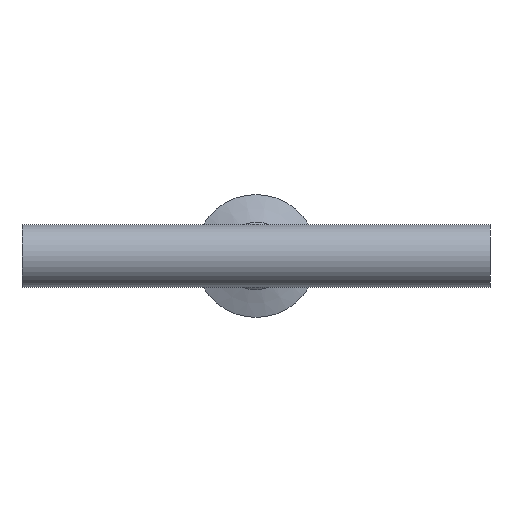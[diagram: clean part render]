
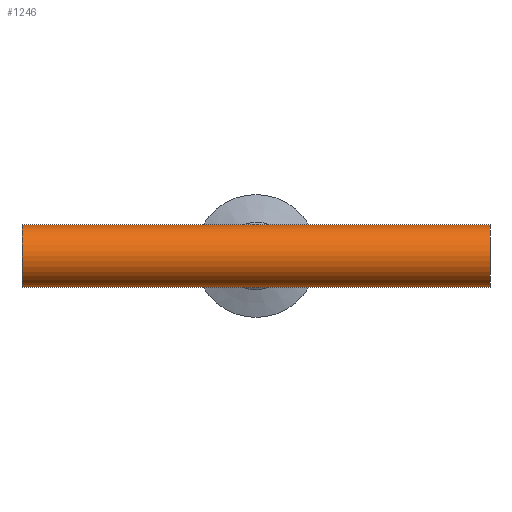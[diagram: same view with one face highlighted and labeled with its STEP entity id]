
A CAD part, front view. The second image highlights one B-rep face of the part: STEP entity #1246.
In plain terms, the highlighted cylindrical face has radius 6.35 mm (diameter 12.7 mm), a partial arc.
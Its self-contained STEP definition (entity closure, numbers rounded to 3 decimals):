
#38 = DIRECTION ( 'NONE',  ( 0., 0., -1. ) ) ;
#111 = VERTEX_POINT ( 'NONE', #345 ) ;
#137 = DIRECTION ( 'NONE',  ( 1., 0., 0. ) ) ;
#149 = VERTEX_POINT ( 'NONE', #519 ) ;
#251 = EDGE_CURVE ( 'NONE', #111, #1142, #917, .T. ) ;
#273 = EDGE_LOOP ( 'NONE', ( #1214, #686, #950, #504, #962, #974 ) ) ;
#284 = CARTESIAN_POINT ( 'NONE',  ( -47.6, 0., 0. ) ) ;
#290 = DIRECTION ( 'NONE',  ( 1., 0., 0. ) ) ;
#297 = DIRECTION ( 'NONE',  ( 0., 0., -1. ) ) ;
#304 = EDGE_CURVE ( 'NONE', #575, #765, #980, .T. ) ;
#324 = CARTESIAN_POINT ( 'NONE',  ( 47.6, 0., -6.35 ) ) ;
#345 = CARTESIAN_POINT ( 'NONE',  ( -47.6, 0., 6.35 ) ) ;
#348 = CARTESIAN_POINT ( 'NONE',  ( 0., 0., 6.35 ) ) ;
#370 = VECTOR ( 'NONE', #612, 1000. ) ;
#382 = CARTESIAN_POINT ( 'NONE',  ( 47.6, 0., 0. ) ) ;
#403 = DIRECTION ( 'NONE',  ( -1., 0., 0. ) ) ;
#425 = VECTOR ( 'NONE', #845, 1000. ) ;
#442 = VERTEX_POINT ( 'NONE', #908 ) ;
#503 = VECTOR ( 'NONE', #137, 1000. ) ;
#504 = ORIENTED_EDGE ( 'NONE', *, *, #912, .T. ) ;
#517 = EDGE_CURVE ( 'NONE', #111, #149, #844, .T. ) ;
#519 = CARTESIAN_POINT ( 'NONE',  ( -47.6, 0., -6.35 ) ) ;
#537 = LINE ( 'NONE', #744, #503 ) ;
#575 = VERTEX_POINT ( 'NONE', #324 ) ;
#577 = DIRECTION ( 'NONE',  ( 1., 0., 0. ) ) ;
#584 = AXIS2_PLACEMENT_3D ( 'NONE', #1215, #1210, #38 ) ;
#604 = CARTESIAN_POINT ( 'NONE',  ( -47.6, 0., -6.35 ) ) ;
#612 = DIRECTION ( 'NONE',  ( 1., 0., 0. ) ) ;
#686 = ORIENTED_EDGE ( 'NONE', *, *, #517, .T. ) ;
#744 = CARTESIAN_POINT ( 'NONE',  ( -47.6, 0., 6.35 ) ) ;
#765 = VERTEX_POINT ( 'NONE', #1187 ) ;
#809 = CYLINDRICAL_SURFACE ( 'NONE', #584, 6.35 ) ;
#844 = CIRCLE ( 'NONE', #946, 6.35 ) ;
#845 = DIRECTION ( 'NONE',  ( 1., 0., 0. ) ) ;
#861 = CARTESIAN_POINT ( 'NONE',  ( -47.6, 0., -6.35 ) ) ;
#879 = DIRECTION ( 'NONE',  ( 0., 0., -1. ) ) ;
#904 = AXIS2_PLACEMENT_3D ( 'NONE', #382, #403, #879 ) ;
#908 = CARTESIAN_POINT ( 'NONE',  ( 0., 0., -6.35 ) ) ;
#912 = EDGE_CURVE ( 'NONE', #442, #575, #1194, .T. ) ;
#917 = LINE ( 'NONE', #1259, #370 ) ;
#946 = AXIS2_PLACEMENT_3D ( 'NONE', #284, #290, #297 ) ;
#950 = ORIENTED_EDGE ( 'NONE', *, *, #990, .T. ) ;
#962 = ORIENTED_EDGE ( 'NONE', *, *, #304, .T. ) ;
#974 = ORIENTED_EDGE ( 'NONE', *, *, #1102, .F. ) ;
#980 = CIRCLE ( 'NONE', #904, 6.35 ) ;
#990 = EDGE_CURVE ( 'NONE', #149, #442, #1146, .T. ) ;
#1102 = EDGE_CURVE ( 'NONE', #1142, #765, #537, .T. ) ;
#1136 = VECTOR ( 'NONE', #577, 1000. ) ;
#1142 = VERTEX_POINT ( 'NONE', #348 ) ;
#1144 = FACE_OUTER_BOUND ( 'NONE', #273, .T. ) ;
#1146 = LINE ( 'NONE', #861, #425 ) ;
#1187 = CARTESIAN_POINT ( 'NONE',  ( 47.6, 0., 6.35 ) ) ;
#1194 = LINE ( 'NONE', #604, #1136 ) ;
#1210 = DIRECTION ( 'NONE',  ( 1., 0., 0. ) ) ;
#1214 = ORIENTED_EDGE ( 'NONE', *, *, #251, .F. ) ;
#1215 = CARTESIAN_POINT ( 'NONE',  ( -47.6, 0., 0. ) ) ;
#1246 = ADVANCED_FACE ( 'NONE', ( #1144 ), #809, .T. ) ;
#1259 = CARTESIAN_POINT ( 'NONE',  ( -47.6, 0., 6.35 ) ) ;
